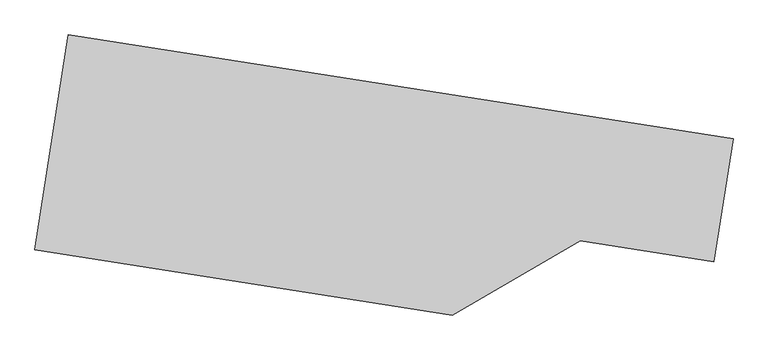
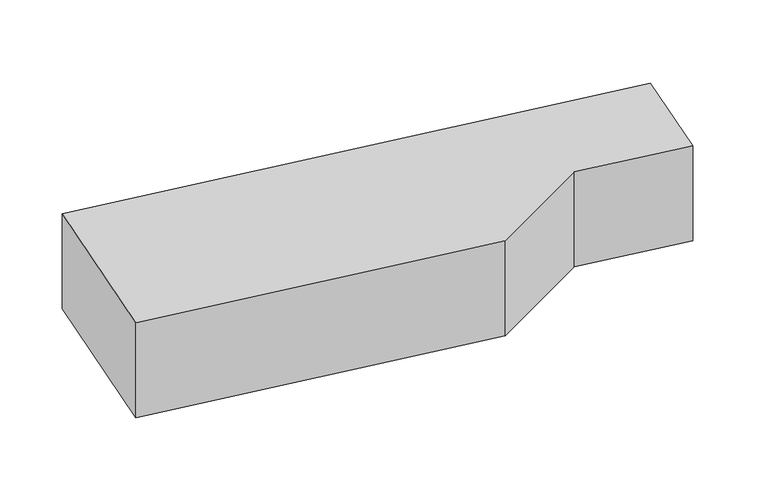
"""IFC4 building model written with IfcOpenShell, lengths in millimetres: furniture geometry, MUEBLE BAÑO 2 : MUEBLE BAÑO 1."""

from ifc_helpers import new_model, si_unit, frame, origin, place, context, project, spatial, polyline, outline, extrude, source, transform, mapped, element, save


def furniture_e5244bbe(model_context):
    return source(origin(), model_context, "Body", "SweptSolid", [
        extrude(outline(polyline([(-35445.5120607, -60426.1056849), (-34101.7378009, -60635.5591131), (-34140.5573409, -60884.6106523), (-34411.1085877, -60842.4399635), (-34669.3725056, -60992.3950635), (-35513.2764052, -60860.8561807), (-35445.5120607, -60426.1056849)])), frame((0.0, 0.0, 503.3254084), z_axis=(0.0, 0.0, 1.0), x_axis=(1.0, 0.0, 0.0)), (0.0, 0.0, 1.0), 250.0),
    ])


if __name__ == "__main__":
    model = new_model("IFC4")
    model_context = context("Model", 3, world=origin())
    ifc_project = project(units=[si_unit("LENGTHUNIT", "METRE", prefix="MILLI")], contexts=[model_context])
    site = spatial("IfcSite", under=ifc_project)
    building = spatial("IfcBuilding", under=site)
    placement = place(None, origin())
    furniture_shape = furniture_e5244bbe(model_context)
    element("IfcFurniture", 1, ObjectType="MUEBLE BAÑO 2 : MUEBLE BAÑO 1", at=placement, inside=building, context=model_context, shape_type="MappedRepresentation", body=[
        mapped(furniture_shape, transform((0.0, 0.0, 0.0), x_axis=(1.0, 0.0, 0.0), y_axis=(0.0, 1.0, 0.0), z_axis=(0.0, 0.0, 1.0))),
    ])
    save(model, "model.ifc")
